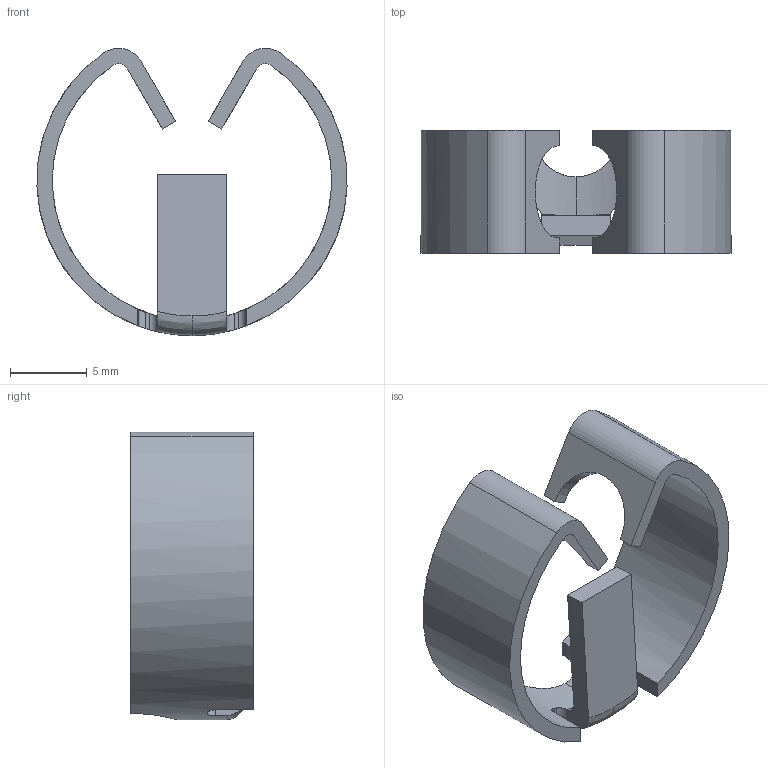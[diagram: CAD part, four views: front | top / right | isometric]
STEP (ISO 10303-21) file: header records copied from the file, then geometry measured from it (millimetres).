
FILE_DESCRIPTION (( 'STEP AP203' ), '1' );
FILE_NAME ('11.04.465 Worktop Connector Fix More steel spring.STEP', '2025-12-03T13:26:08', ( '' ), ( '' ), 'SwSTEP 2.0', 'SolidWorks 2024', '' );
FILE_SCHEMA (( 'CONFIG_CONTROL_DESIGN' ));
Length unit declared in the file: millimetre
Products named in the file (1): 11.04.465 Worktop Connector Fix More steel spring
Bounding box: 20.18 x 8 x 18.7 mm (x, y, z)
Volume: 494.5 mm3; surface area: 1144.4 mm2
Topology: 1 solids, 1 shells, 43 faces, 121 edges, 80 vertices
Faces by surface type: plane 23, cylinder 16, bspline 4
Entity records: 1596 total; most frequent: CARTESIAN_POINT 465, ORIENTED_EDGE 242, DIRECTION 199, EDGE_CURVE 121, VERTEX_POINT 80, AXIS2_PLACEMENT_3D 68, VECTOR 63, LINE 63
